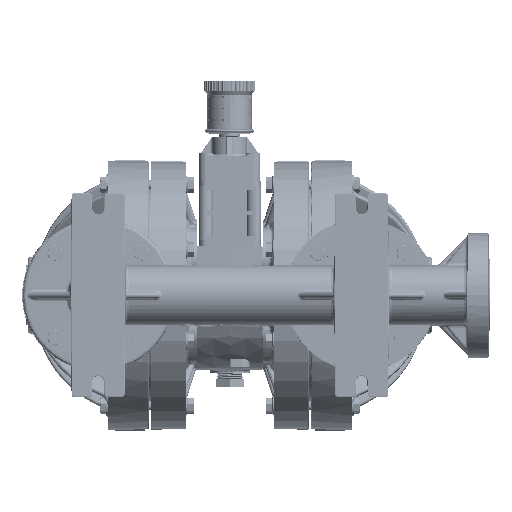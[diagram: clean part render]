
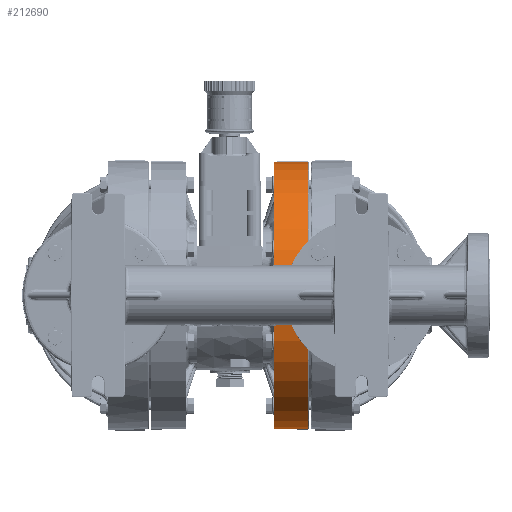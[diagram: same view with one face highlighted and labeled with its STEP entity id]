
A CAD part, front view. The second image highlights one B-rep face of the part: STEP entity #212690.
In plain terms, the highlighted conical face has half-angle 0.5 degrees and reference radius 135.858 mm.
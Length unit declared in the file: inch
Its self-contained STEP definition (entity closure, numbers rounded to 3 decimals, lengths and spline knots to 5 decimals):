
#13977 = LINE ( 'NONE', #317608, #133858 ) ;
#15937 = ORIENTED_EDGE ( 'NONE', *, *, #284410, .F. ) ;
#26426 = EDGE_LOOP ( 'NONE', ( #15937, #237235, #140645, #502691, #70680, #335661, #384042, #340104, #456351 ) ) ;
#27163 = CIRCLE ( 'NONE', #141064, 5.3427 ) ;
#39481 = CARTESIAN_POINT ( 'NONE',  ( 1.762, 0., 5.3427 ) ) ;
#39751 = VERTEX_POINT ( 'NONE', #210103 ) ;
#43137 = DIRECTION ( 'NONE',  ( 0., -1., 0. ) ) ;
#45649 = CARTESIAN_POINT ( 'NONE',  ( 3.14995, 0., 0. ) ) ;
#48300 = CARTESIAN_POINT ( 'NONE',  ( 1.877, -0.02649, -5.34363 ) ) ;
#49790 = EDGE_CURVE ( 'NONE', #124015, #361833, #27163, .T. ) ;
#59415 = LINE ( 'NONE', #373192, #91665 ) ;
#68755 = VERTEX_POINT ( 'NONE', #403778 ) ;
#70680 = ORIENTED_EDGE ( 'NONE', *, *, #49790, .T. ) ;
#80170 = EDGE_CURVE ( 'NONE', #414181, #225406, #84017, .T. ) ;
#81693 = CARTESIAN_POINT ( 'NONE',  ( 1.762, 0., -5.3427 ) ) ;
#84017 = CIRCLE ( 'NONE', #353180, 5.3437 ) ;
#91128 = EDGE_CURVE ( 'NONE', #201992, #475496, #477410, .T. ) ;
#91665 = VECTOR ( 'NONE', #179264, 39.37008 ) ;
#101954 = CARTESIAN_POINT ( 'NONE',  ( 1.877, 0., -5.3437 ) ) ;
#104993 = CARTESIAN_POINT ( 'NONE',  ( 2.45597, 0., 0. ) ) ;
#106427 = AXIS2_PLACEMENT_3D ( 'NONE', #45649, #430985, #43137 ) ;
#117370 = CARTESIAN_POINT ( 'NONE',  ( 1.877, -0.02629, 5.34363 ) ) ;
#120172 = AXIS2_PLACEMENT_3D ( 'NONE', #237700, #324226, #285977 ) ;
#124015 = VERTEX_POINT ( 'NONE', #39481 ) ;
#133858 = VECTOR ( 'NONE', #368471, 39.37008 ) ;
#138167 = DIRECTION ( 'NONE',  ( 0., 0., 1. ) ) ;
#139171 = CIRCLE ( 'NONE', #106427, 5.35481 ) ;
#140645 = ORIENTED_EDGE ( 'NONE', *, *, #80170, .F. ) ;
#141064 = AXIS2_PLACEMENT_3D ( 'NONE', #176488, #384895, #138167 ) ;
#176488 = CARTESIAN_POINT ( 'NONE',  ( 1.762, 0., 0. ) ) ;
#179264 = DIRECTION ( 'NONE',  ( -1., 0., 0.009 ) ) ;
#184843 = CARTESIAN_POINT ( 'NONE',  ( 1.877, 0., 0. ) ) ;
#197843 = DIRECTION ( 'NONE',  ( 0., -0.005, -1. ) ) ;
#201992 = VERTEX_POINT ( 'NONE', #48300 ) ;
#210103 = CARTESIAN_POINT ( 'NONE',  ( 3.14995, -0.03092, 5.35472 ) ) ;
#212690 = ADVANCED_FACE ( 'NONE', ( #492925 ), #315792, .T. ) ;
#225406 = VERTEX_POINT ( 'NONE', #117370 ) ;
#226281 = AXIS2_PLACEMENT_3D ( 'NONE', #104993, #413811, #447032 ) ;
#229097 = CARTESIAN_POINT ( 'NONE',  ( 2.30086, -0.02803, -5.34732 ) ) ;
#230198 = EDGE_CURVE ( 'NONE', #475496, #361833, #59415, .T. ) ;
#237235 = ORIENTED_EDGE ( 'NONE', *, *, #383109, .F. ) ;
#237700 = CARTESIAN_POINT ( 'NONE',  ( 3.14995, 0., 0. ) ) ;
#255515 = DIRECTION ( 'NONE',  ( 1., 0., 0. ) ) ;
#284410 = EDGE_CURVE ( 'NONE', #39751, #306152, #340151, .T. ) ;
#285977 = DIRECTION ( 'NONE',  ( 0., -0.006, 1. ) ) ;
#294635 = DIRECTION ( 'NONE',  ( 1., 0., 0. ) ) ;
#298445 = AXIS2_PLACEMENT_3D ( 'NONE', #449492, #255515, #197843 ) ;
#300592 = CARTESIAN_POINT ( 'NONE',  ( 2.01824, -0.02701, -5.34486 ) ) ;
#306152 = VERTEX_POINT ( 'NONE', #338828 ) ;
#306945 = CARTESIAN_POINT ( 'NONE',  ( 2.01824, -0.02681, 5.34486 ) ) ;
#311933 = CARTESIAN_POINT ( 'NONE',  ( 1.877, -0.02629, 5.34363 ) ) ;
#315792 = CONICAL_SURFACE ( 'NONE', #226281, 5.34875, 0.009 ) ;
#317608 = CARTESIAN_POINT ( 'NONE',  ( 1.877, 0., 5.3437 ) ) ;
#324226 = DIRECTION ( 'NONE',  ( 1., 0., 0. ) ) ;
#325340 = EDGE_CURVE ( 'NONE', #201992, #68755, #356273, .T. ) ;
#335661 = ORIENTED_EDGE ( 'NONE', *, *, #230198, .F. ) ;
#338828 = CARTESIAN_POINT ( 'NONE',  ( 3.14995, -5.35481, 0. ) ) ;
#340104 = ORIENTED_EDGE ( 'NONE', *, *, #325340, .T. ) ;
#340151 = CIRCLE ( 'NONE', #120172, 5.35481 ) ;
#353180 = AXIS2_PLACEMENT_3D ( 'NONE', #184843, #294635, #417074 ) ;
#356273 = B_SPLINE_CURVE_WITH_KNOTS ( 'NONE', 3,
 ( #463896, #300592, #229097, #456319, #453811, #425565 ),
 .UNSPECIFIED., .F., .F.,
 ( 4, 1, 1, 4 ),
 ( 0., 0.33333, 0.66667, 1. ),
 .UNSPECIFIED. ) ;
#361833 = VERTEX_POINT ( 'NONE', #81693 ) ;
#366634 = B_SPLINE_CURVE_WITH_KNOTS ( 'NONE', 3,
 ( #311933, #306945, #467728, #462709, #424368, #434432 ),
 .UNSPECIFIED., .F., .F.,
 ( 4, 1, 1, 4 ),
 ( 0., 0.33333, 0.66667, 1. ),
 .UNSPECIFIED. ) ;
#368471 = DIRECTION ( 'NONE',  ( -1., 0., -0.009 ) ) ;
#373192 = CARTESIAN_POINT ( 'NONE',  ( 1.877, 0., -5.3437 ) ) ;
#383109 = EDGE_CURVE ( 'NONE', #225406, #39751, #366634, .T. ) ;
#384042 = ORIENTED_EDGE ( 'NONE', *, *, #91128, .F. ) ;
#384895 = DIRECTION ( 'NONE',  ( 1., 0., 0. ) ) ;
#403778 = CARTESIAN_POINT ( 'NONE',  ( 3.14995, -0.03112, -5.35472 ) ) ;
#406680 = EDGE_CURVE ( 'NONE', #306152, #68755, #139171, .T. ) ;
#413811 = DIRECTION ( 'NONE',  ( 1., 0., 0. ) ) ;
#414181 = VERTEX_POINT ( 'NONE', #495997 ) ;
#417074 = DIRECTION ( 'NONE',  ( 0., 0., 1. ) ) ;
#424368 = CARTESIAN_POINT ( 'NONE',  ( 3.00832, -0.0304, 5.35349 ) ) ;
#425565 = CARTESIAN_POINT ( 'NONE',  ( 3.14995, -0.03112, -5.35472 ) ) ;
#430985 = DIRECTION ( 'NONE',  ( 1., 0., 0. ) ) ;
#434432 = CARTESIAN_POINT ( 'NONE',  ( 3.14995, -0.03092, 5.35472 ) ) ;
#447032 = DIRECTION ( 'NONE',  ( 0., 0., -1. ) ) ;
#449492 = CARTESIAN_POINT ( 'NONE',  ( 1.877, 0., 0. ) ) ;
#453811 = CARTESIAN_POINT ( 'NONE',  ( 3.00832, -0.0306, -5.35348 ) ) ;
#454675 = EDGE_CURVE ( 'NONE', #414181, #124015, #13977, .T. ) ;
#456319 = CARTESIAN_POINT ( 'NONE',  ( 2.72518, -0.02958, -5.35102 ) ) ;
#456351 = ORIENTED_EDGE ( 'NONE', *, *, #406680, .F. ) ;
#462709 = CARTESIAN_POINT ( 'NONE',  ( 2.72518, -0.02938, 5.35102 ) ) ;
#463896 = CARTESIAN_POINT ( 'NONE',  ( 1.877, -0.02649, -5.34363 ) ) ;
#467728 = CARTESIAN_POINT ( 'NONE',  ( 2.30086, -0.02783, 5.34733 ) ) ;
#475496 = VERTEX_POINT ( 'NONE', #101954 ) ;
#477410 = CIRCLE ( 'NONE', #298445, 5.3437 ) ;
#492925 = FACE_OUTER_BOUND ( 'NONE', #26426, .T. ) ;
#495997 = CARTESIAN_POINT ( 'NONE',  ( 1.877, 0., 5.3437 ) ) ;
#502691 = ORIENTED_EDGE ( 'NONE', *, *, #454675, .T. ) ;
